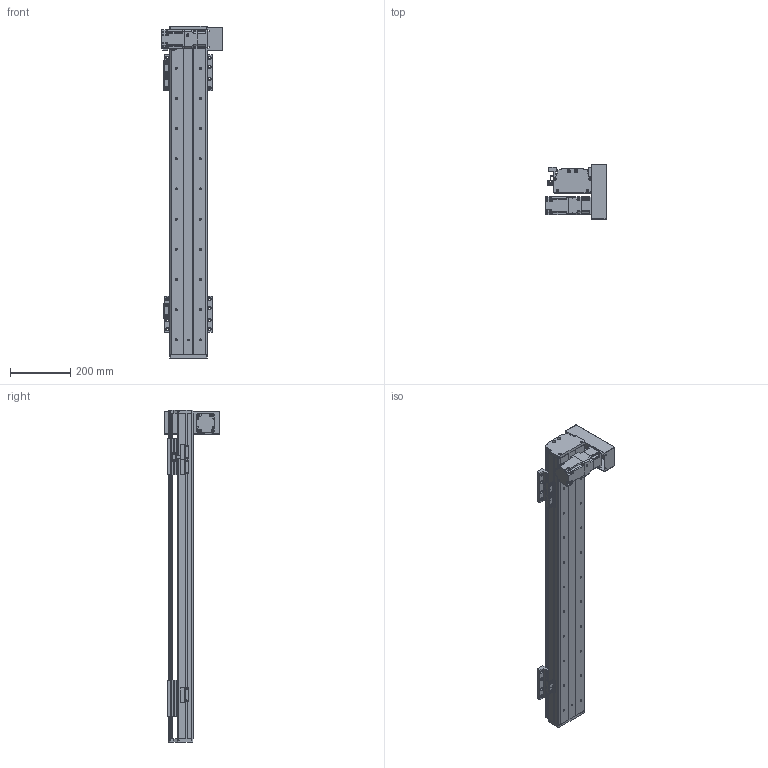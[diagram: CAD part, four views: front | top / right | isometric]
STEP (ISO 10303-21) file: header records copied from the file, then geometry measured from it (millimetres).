
FILE_DESCRIPTION(/* description */ (''),/* implementation_level */ '2;1');
FILE_NAME(/* name */ 'C:\Users\PC\Desktop\3D도면\STEP\새 폴더\DSB125-DR2G-W0800-L.stp',/* time_stamp */ '2018-06-21T14:57:38+09:00',/* author */ ('PC'),/* organization */ (''),/* preprocessor_version */ 'ST-DEVELOPER v16.5',/* originating_system */ 'Autodesk Inventor 2017',/* authorisation */ '');
FILE_SCHEMA (('AUTOMOTIVE_DESIGN { 1 0 10303 214 3 1 1 }'));
Length unit declared in the file: millimetre
Products named in the file (12): DSB125-DL2G-W0800-R_MIR; DSB125-BASE_MIR; DSB125-FRONT COVER_MIR; DSB125-REAR COVER_MIR; DSB125-UP COVER_MIR; hg-kr23__MIR; ab0601-p0401200402_MIR; 13-BELT COVER_MIR; DSR125-SENSOR DOG_MIR; pm-y65_step_MIR; SENSOR BRACKET(EE-SX674A)_MIR; DSB125-TABLE(MSB15S)_MIR
Assembly tree (16 placements, depth 2):
  DSB125-DL2G-W0800-R_MIR
    DSB125-BASE_MIR
    DSB125-FRONT COVER_MIR
    DSB125-REAR COVER_MIR
    DSB125-UP COVER_MIR
    hg-kr23__MIR
    ab0601-p0401200402_MIR
    13-BELT COVER_MIR
    DSR125-SENSOR DOG_MIR
    pm-y65_step_MIR  x3
    SENSOR BRACKET(EE-SX674A)_MIR  x3
    DSB125-TABLE(MSB15S)_MIR  x2
Bounding box: 202.1 x 182 x 1100 mm (x, y, z)
Volume: 4258173.1 mm3; surface area: 1227737.1 mm2
Topology: 17 solids, 17 shells, 1655 faces, 4490 edges, 2960 vertices
Faces by surface type: plane 903, cylinder 628, cone 112, sphere 8, torus 4
Full cylindrical faces by diameter (mm): 2.459 x20, 3.242 x16, 3.5 x6, 4 x1, 4.134 x16, 4.2 x4, 4.3 x1, 4.5 x50, 4.917 x20, 5 x22, 5.3 x1, 5.5 x4, 5.6 x8, 5.8 x4, 5.9 x8, 6 x4, 6.6 x22, 6.647 x22, 7.5 x32, 8.5 x8, 8.7 x1, 11 x22, 14 x1, 16 x2, 17 x1, 20 x1, 47 x1, 50 x3
Entity records: 35885 total; most frequent: CARTESIAN_POINT 6471, DIRECTION 6090, ORIENTED_EDGE 5466, EDGE_CURVE 2733, AXIS2_PLACEMENT_3D 2233, VERTEX_POINT 1942, EDGE_LOOP 1661, LINE 1624
